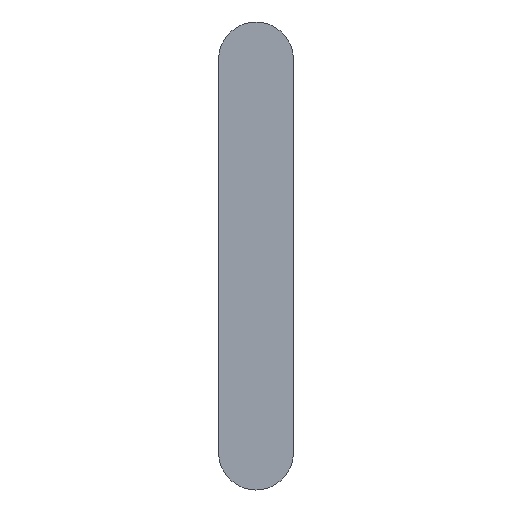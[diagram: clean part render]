
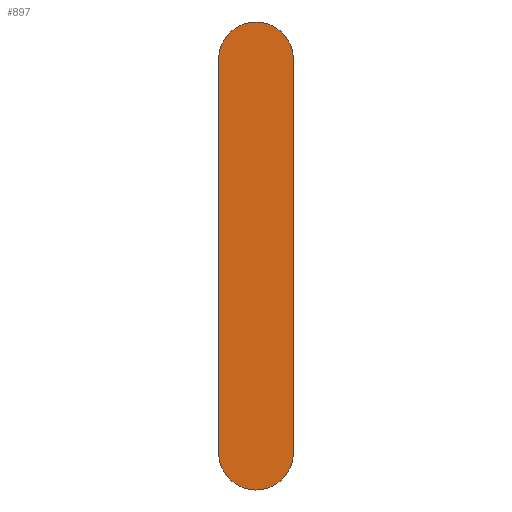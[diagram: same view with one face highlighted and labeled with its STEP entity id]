
A CAD part, front view. The second image highlights one B-rep face of the part: STEP entity #897.
In plain terms, the highlighted planar face has unit normal (0, -1, 0).
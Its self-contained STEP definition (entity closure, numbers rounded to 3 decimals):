
#34 = CIRCLE ( 'NONE', #1273, 8. ) ;
#63 = LINE ( 'NONE', #2171, #1967 ) ;
#140 = ORIENTED_EDGE ( 'NONE', *, *, #896, .F. ) ;
#143 = DIRECTION ( 'NONE',  ( 0., -1., 0. ) ) ;
#161 = DIRECTION ( 'NONE',  ( -1., 0., 0. ) ) ;
#217 = EDGE_CURVE ( 'NONE', #2230, #1180, #2127, .T. ) ;
#366 = CARTESIAN_POINT ( 'NONE',  ( 42., 0., 0. ) ) ;
#541 = DIRECTION ( 'NONE',  ( 0., 0., -1. ) ) ;
#570 = CARTESIAN_POINT ( 'NONE',  ( -42., 0., -8. ) ) ;
#574 = ORIENTED_EDGE ( 'NONE', *, *, #1334, .F. ) ;
#589 = CIRCLE ( 'NONE', #2081, 8. ) ;
#648 = VECTOR ( 'NONE', #1447, 1000. ) ;
#690 = CARTESIAN_POINT ( 'NONE',  ( 42., 0., -8. ) ) ;
#858 = PLANE ( 'NONE',  #2107 ) ;
#896 = EDGE_CURVE ( 'NONE', #1928, #2230, #589, .T. ) ;
#897 = ADVANCED_FACE ( 'NONE', ( #1518 ), #858, .T. ) ;
#1046 = CARTESIAN_POINT ( 'NONE',  ( -42., 0., 0. ) ) ;
#1180 = VERTEX_POINT ( 'NONE', #1629 ) ;
#1232 = DIRECTION ( 'NONE',  ( 0., 0., -1. ) ) ;
#1265 = ORIENTED_EDGE ( 'NONE', *, *, #1811, .F. ) ;
#1273 = AXIS2_PLACEMENT_3D ( 'NONE', #366, #1654, #541 ) ;
#1334 = EDGE_CURVE ( 'NONE', #1350, #1928, #63, .T. ) ;
#1350 = VERTEX_POINT ( 'NONE', #690 ) ;
#1410 = EDGE_LOOP ( 'NONE', ( #140, #574, #1265, #1940 ) ) ;
#1419 = DIRECTION ( 'NONE',  ( 0., 0., -1. ) ) ;
#1447 = DIRECTION ( 'NONE',  ( 1., 0., 0. ) ) ;
#1518 = FACE_OUTER_BOUND ( 'NONE', #1410, .T. ) ;
#1629 = CARTESIAN_POINT ( 'NONE',  ( 42., 0., 8. ) ) ;
#1654 = DIRECTION ( 'NONE',  ( 0., 1., 0. ) ) ;
#1811 = EDGE_CURVE ( 'NONE', #1180, #1350, #34, .T. ) ;
#1848 = CARTESIAN_POINT ( 'NONE',  ( -42., 0., 8. ) ) ;
#1928 = VERTEX_POINT ( 'NONE', #570 ) ;
#1940 = ORIENTED_EDGE ( 'NONE', *, *, #217, .F. ) ;
#1967 = VECTOR ( 'NONE', #161, 1000. ) ;
#2081 = AXIS2_PLACEMENT_3D ( 'NONE', #1046, #2332, #1232 ) ;
#2107 = AXIS2_PLACEMENT_3D ( 'NONE', #2319, #143, #1419 ) ;
#2127 = LINE ( 'NONE', #2367, #648 ) ;
#2171 = CARTESIAN_POINT ( 'NONE',  ( -42., 0., -8. ) ) ;
#2230 = VERTEX_POINT ( 'NONE', #1848 ) ;
#2319 = CARTESIAN_POINT ( 'NONE',  ( -42., 0., 0. ) ) ;
#2332 = DIRECTION ( 'NONE',  ( 0., 1., 0. ) ) ;
#2367 = CARTESIAN_POINT ( 'NONE',  ( 42., 0., 8. ) ) ;
